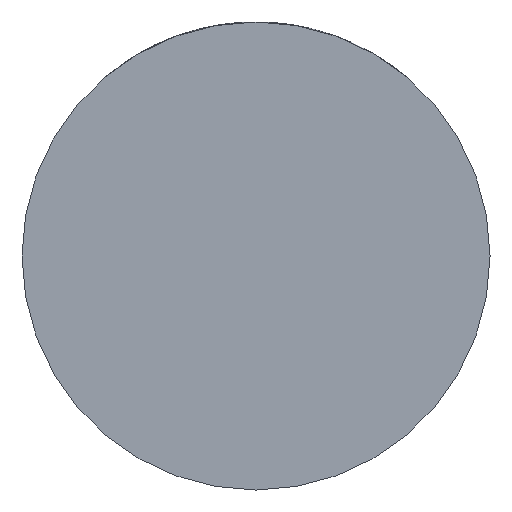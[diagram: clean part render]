
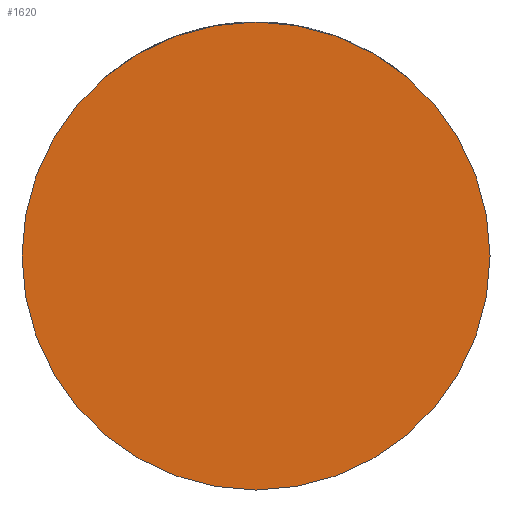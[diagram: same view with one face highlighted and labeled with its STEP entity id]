
A CAD part, front view. The second image highlights one B-rep face of the part: STEP entity #1620.
In plain terms, the highlighted planar face has unit normal (0, -1, 0).
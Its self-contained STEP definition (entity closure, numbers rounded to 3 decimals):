
#50 = CARTESIAN_POINT ( 'NONE',  ( 0., -45., 0. ) ) ;
#429 = DIRECTION ( 'NONE',  ( 1., 0., 0. ) ) ;
#709 = CARTESIAN_POINT ( 'NONE',  ( 0., -45., 0. ) ) ;
#741 = EDGE_LOOP ( 'NONE', ( #3599, #1486 ) ) ;
#867 = FACE_OUTER_BOUND ( 'NONE', #741, .T. ) ;
#922 = DIRECTION ( 'NONE',  ( 0., -1., 0. ) ) ;
#1033 = CARTESIAN_POINT ( 'NONE',  ( 49., -45., 0. ) ) ;
#1076 = DIRECTION ( 'NONE',  ( 1., 0., 0. ) ) ;
#1440 = EDGE_CURVE ( 'NONE', #3330, #2479, #4162, .T. ) ;
#1486 = ORIENTED_EDGE ( 'NONE', *, *, #1440, .T. ) ;
#1616 = AXIS2_PLACEMENT_3D ( 'NONE', #2984, #922, #2276 ) ;
#1620 = ADVANCED_FACE ( 'NONE', ( #867 ), #1855, .T. ) ;
#1855 = PLANE ( 'NONE',  #2568 ) ;
#2276 = DIRECTION ( 'NONE',  ( 1., 0., 0. ) ) ;
#2288 = CARTESIAN_POINT ( 'NONE',  ( -49., -45., 0. ) ) ;
#2479 = VERTEX_POINT ( 'NONE', #2288 ) ;
#2568 = AXIS2_PLACEMENT_3D ( 'NONE', #50, #2936, #429 ) ;
#2796 = EDGE_CURVE ( 'NONE', #2479, #3330, #3638, .T. ) ;
#2936 = DIRECTION ( 'NONE',  ( 0., -1., 0. ) ) ;
#2984 = CARTESIAN_POINT ( 'NONE',  ( 0., -45., 0. ) ) ;
#3167 = AXIS2_PLACEMENT_3D ( 'NONE', #709, #4245, #1076 ) ;
#3330 = VERTEX_POINT ( 'NONE', #1033 ) ;
#3599 = ORIENTED_EDGE ( 'NONE', *, *, #2796, .T. ) ;
#3638 = CIRCLE ( 'NONE', #1616, 49. ) ;
#4162 = CIRCLE ( 'NONE', #3167, 49. ) ;
#4245 = DIRECTION ( 'NONE',  ( 0., -1., 0. ) ) ;
